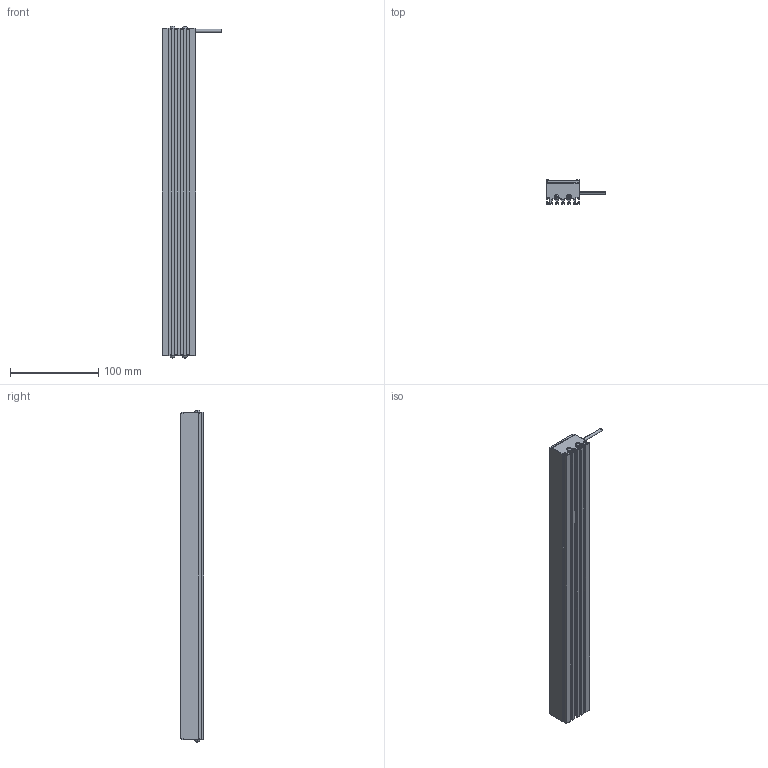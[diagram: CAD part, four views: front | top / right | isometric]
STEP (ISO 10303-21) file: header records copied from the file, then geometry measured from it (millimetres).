
FILE_DESCRIPTION((''),'2;1');
FILE_NAME('MV-LLDS-372-38_ASM','2020-12-30T',('Administrator'),(''),'PRO/ENGINEER BY PARAMETRIC TECHNOLOGY CORPORATION, 2010100','PRO/ENGINEER BY PARAMETRIC TECHNOLOGY CORPORATION, 2010100','');
FILE_SCHEMA(('CONFIG_CONTROL_DESIGN'));
Length unit declared in the file: millimetre
Products named in the file (3): BL-6_3_; M3-5_3; MV-LLDS-372-38_ASM
Assembly tree (5 placements, depth 2):
  MV-LLDS-372-38_ASM
    BL-6_3_
    M3-5_3  x4
Bounding box: 68 x 27 x 376.68 mm (x, y, z)
Volume: 311313.8 mm3; surface area: 90693.5 mm2
Topology: 5 solids, 13 shells, 349 faces, 934 edges, 604 vertices
Faces by surface type: plane 223, cylinder 78, cone 16, bspline 16, torus 8, sphere 8
Entity records: 8211 total; most frequent: CARTESIAN_POINT 1703, ORIENTED_EDGE 1338, DIRECTION 1310, EDGE_CURVE 679, VECTOR 514, LINE 514, VERTEX_POINT 445, AXIS2_PLACEMENT_3D 398
